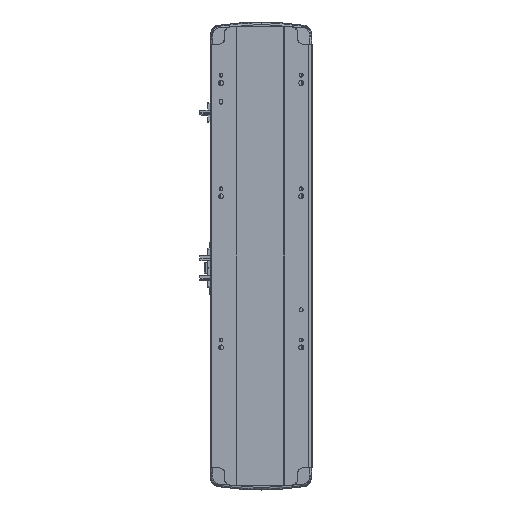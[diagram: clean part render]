
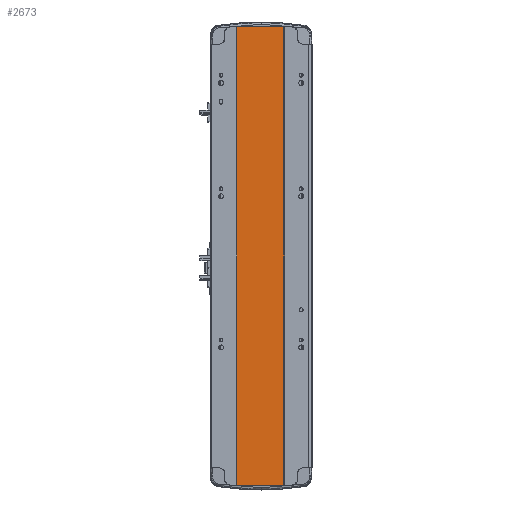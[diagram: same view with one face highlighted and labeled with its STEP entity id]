
A CAD part, front view. The second image highlights one B-rep face of the part: STEP entity #2673.
In plain terms, the highlighted planar face has unit normal (0, -1, 0).
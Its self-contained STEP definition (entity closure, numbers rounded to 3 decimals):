
#754 = EDGE_CURVE ( 'NONE', #10033, #34605, #21295, .T. ) ;
#1343 = FACE_OUTER_BOUND ( 'NONE', #24187, .T. ) ;
#1716 = DIRECTION ( 'NONE',  ( 1., 0., 0. ) ) ;
#2673 = ADVANCED_FACE ( 'NONE', ( #1343 ), #19320, .F. ) ;
#3315 = DIRECTION ( 'NONE',  ( 1., 0., 0. ) ) ;
#3499 = DIRECTION ( 'NONE',  ( -1., 0., 0. ) ) ;
#3612 = VECTOR ( 'NONE', #3315, 1000. ) ;
#3897 = VECTOR ( 'NONE', #18698, 1000. ) ;
#4008 = ORIENTED_EDGE ( 'NONE', *, *, #754, .T. ) ;
#4109 = CARTESIAN_POINT ( 'NONE',  ( 30., 1., 0. ) ) ;
#5787 = EDGE_CURVE ( 'NONE', #15581, #21653, #42472, .T. ) ;
#6398 = DIRECTION ( 'NONE',  ( 0., 0., -1. ) ) ;
#6605 = CARTESIAN_POINT ( 'NONE',  ( -32., 1., 606. ) ) ;
#6905 = DIRECTION ( 'NONE',  ( 0., 1., 0. ) ) ;
#10033 = VERTEX_POINT ( 'NONE', #15941 ) ;
#12034 = ORIENTED_EDGE ( 'NONE', *, *, #33249, .F. ) ;
#14175 = VECTOR ( 'NONE', #6398, 1000. ) ;
#15331 = EDGE_CURVE ( 'NONE', #34605, #21653, #26265, .T. ) ;
#15581 = VERTEX_POINT ( 'NONE', #25222 ) ;
#15941 = CARTESIAN_POINT ( 'NONE',  ( -32., 1., 606. ) ) ;
#16031 = AXIS2_PLACEMENT_3D ( 'NONE', #6605, #6905, #3499 ) ;
#17637 = CARTESIAN_POINT ( 'NONE',  ( -32., 1., 0. ) ) ;
#18698 = DIRECTION ( 'NONE',  ( 0., 0., -1. ) ) ;
#19320 = PLANE ( 'NONE',  #16031 ) ;
#21295 = LINE ( 'NONE', #34542, #14175 ) ;
#21653 = VERTEX_POINT ( 'NONE', #4109 ) ;
#24187 = EDGE_LOOP ( 'NONE', ( #40070, #32346, #12034, #4008 ) ) ;
#24360 = LINE ( 'NONE', #36968, #41403 ) ;
#25222 = CARTESIAN_POINT ( 'NONE',  ( 30., 1., 606. ) ) ;
#26265 = LINE ( 'NONE', #17637, #3612 ) ;
#26388 = CARTESIAN_POINT ( 'NONE',  ( 30., 1., 606. ) ) ;
#32346 = ORIENTED_EDGE ( 'NONE', *, *, #5787, .F. ) ;
#33249 = EDGE_CURVE ( 'NONE', #10033, #15581, #24360, .T. ) ;
#34542 = CARTESIAN_POINT ( 'NONE',  ( -32., 1., 606. ) ) ;
#34605 = VERTEX_POINT ( 'NONE', #41074 ) ;
#36968 = CARTESIAN_POINT ( 'NONE',  ( -32., 1., 606. ) ) ;
#40070 = ORIENTED_EDGE ( 'NONE', *, *, #15331, .T. ) ;
#41074 = CARTESIAN_POINT ( 'NONE',  ( -32., 1., 0. ) ) ;
#41403 = VECTOR ( 'NONE', #1716, 1000. ) ;
#42472 = LINE ( 'NONE', #26388, #3897 ) ;
